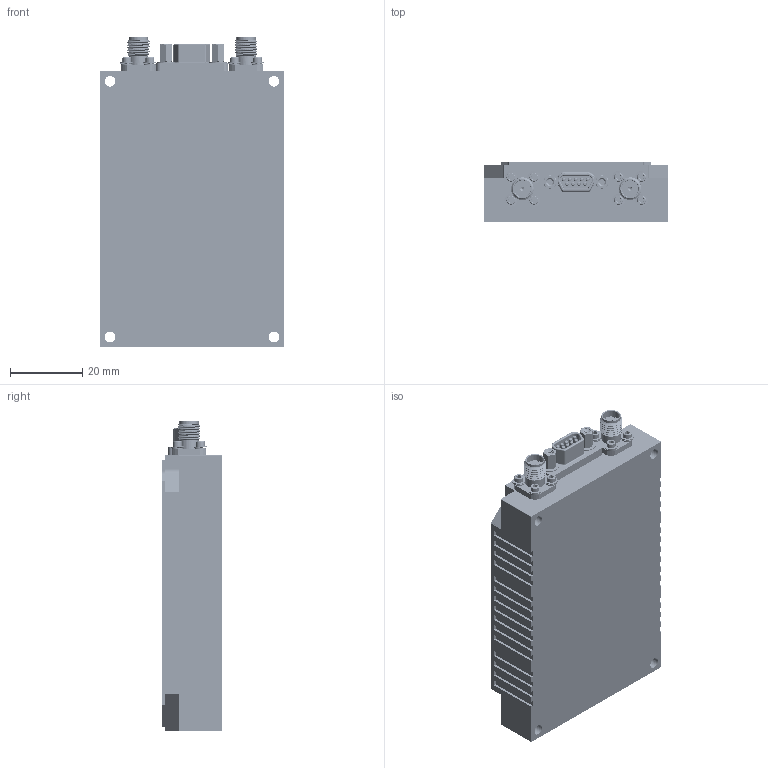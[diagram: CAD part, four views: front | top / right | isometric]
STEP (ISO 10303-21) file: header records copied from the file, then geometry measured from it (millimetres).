
FILE_DESCRIPTION (( 'STEP AP214' ), '1' );
FILE_NAME ('NW-PA-12B01A 3D MODEL.STEP', '2025-03-28T15:40:32', ( '' ), ( '' ), 'SwSTEP 2.0', 'SolidWorks 2021', '' );
FILE_SCHEMA (( 'AUTOMOTIVE_DESIGN' ));
Length unit declared in the file: inch
Products named in the file (12): 92196A054_92196A054; NW-PA-12B01A 3D MODEL; A6036-1300; 5710-120-16_92141A001; MDM-9P; 92146A510_92146A510; 96640A023_96640A023; A6036-1200; MDM JACK POST_91075A512; MDM JACK POST LOCK_98449A500; 91771A081_91771A081; DELTA COAX CABLE 430 LONG
Assembly tree (44 placements, depth 2):
  NW-PA-12B01A 3D MODEL
    A6036-1300
    A6036-1200
    MDM-9P
    DELTA COAX CABLE 430 LONG  x2
    96640A023_96640A023  x4
    MDM JACK POST LOCK_98449A500  x2
    MDM JACK POST_91075A512  x2
    91771A081_91771A081  x7
    5710-120-16_92141A001  x8
    92146A510_92146A510  x8
    92196A054_92196A054  x8
Bounding box: 50.8 x 16.54 x 85.7 mm (x, y, z)
Volume: 28075.8 mm3; surface area: 30802 mm2
Topology: 44 solids, 44 shells, 3233 faces, 8866 edges, 5786 vertices
Faces by surface type: cylinder 1461, plane 1105, cone 403, bspline 264
Entity records: 78827 total; most frequent: CARTESIAN_POINT 29601, ORIENTED_EDGE 8750, DIRECTION 7221, EDGE_CURVE 4375, VERTEX_POINT 2879, LINE 2793, VECTOR 2793, AXIS2_PLACEMENT_3D 2214
